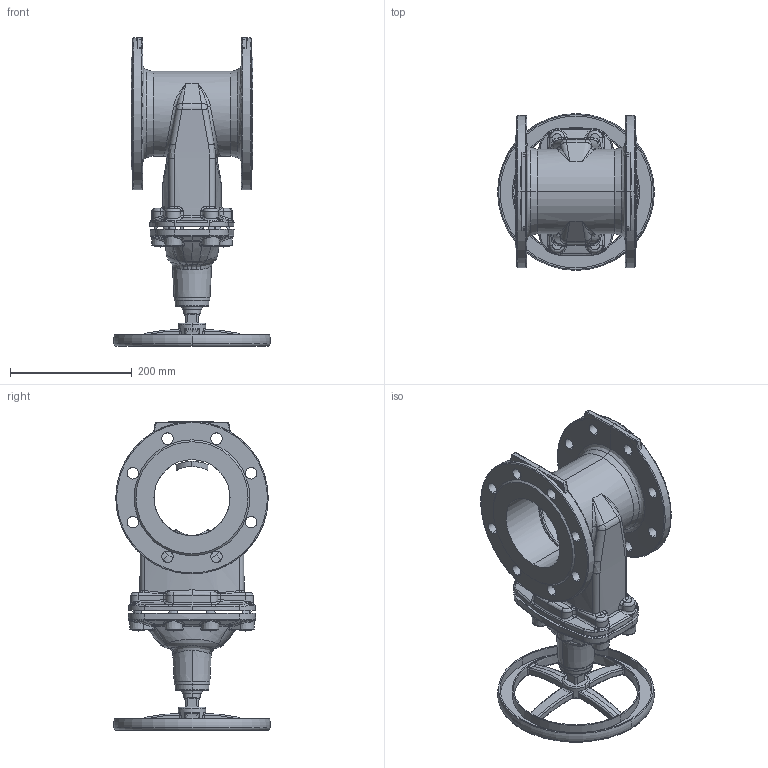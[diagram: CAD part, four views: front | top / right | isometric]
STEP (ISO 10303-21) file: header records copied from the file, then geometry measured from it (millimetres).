
FILE_DESCRIPTION (( 'STEP AP203' ), '1' );
FILE_NAME ('VOC4241C-00EP0125.STEP', '2021-11-17T15:34:47', ( '' ), ( '' ), 'SwSTEP 2.0', 'SolidWorks 2020', '' );
FILE_SCHEMA (( 'CONFIG_CONTROL_DESIGN' ));
Products named in the file (1): VOC4241C-00EP0125
Bounding box: 257.5 x 257.5 x 507.1 mm (x, y, z)
Surface area: 587373.3 mm2 (no closed solid volume)
Topology: 0 solids, 31 shells, 991 faces, 2681 edges, 1680 vertices
Faces by surface type: bspline 582, cylinder 179, plane 90, torus 70, cone 54, sphere 16
Entity records: 128094 total; most frequent: CARTESIAN_POINT 109053, ORIENTED_EDGE 4936, EDGE_CURVE 2678, DIRECTION 2315, VERTEX_POINT 1680, B_SPLINE_CURVE_WITH_KNOTS 1534, EDGE_LOOP 1062, AXIS2_PLACEMENT_3D 1024
